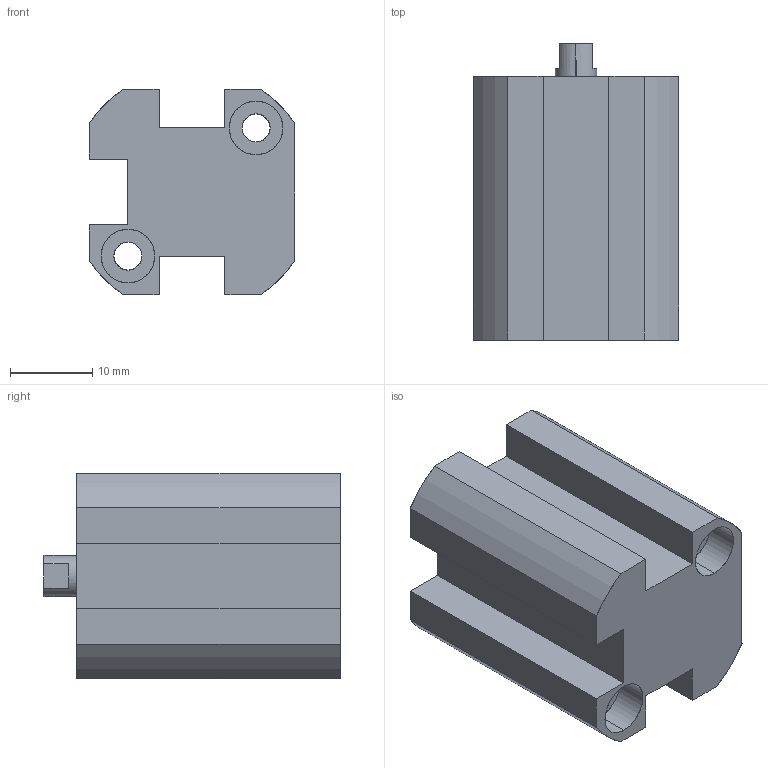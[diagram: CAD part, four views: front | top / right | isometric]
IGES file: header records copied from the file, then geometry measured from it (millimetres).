
Start section: SolidWorks IGES file using analytic representation for surfaces
Global section: file name: C:\Users\Toshiba\Desktop\XC#1-10D-10.IGS; native system: SolidWorks 2014; preprocessor: SolidWorks 2014; author: Toshiba; date: 160523.150908; units: millimetre
Bounding box: 25 x 36 x 25 mm (x, y, z)
Surface area: 5971.9 mm2 (no closed solid volume)
Topology: 0 solids, 0 shells, 72 faces, 1163 edges, 1161 vertices
Faces by surface type: revolution 39, bspline 33
